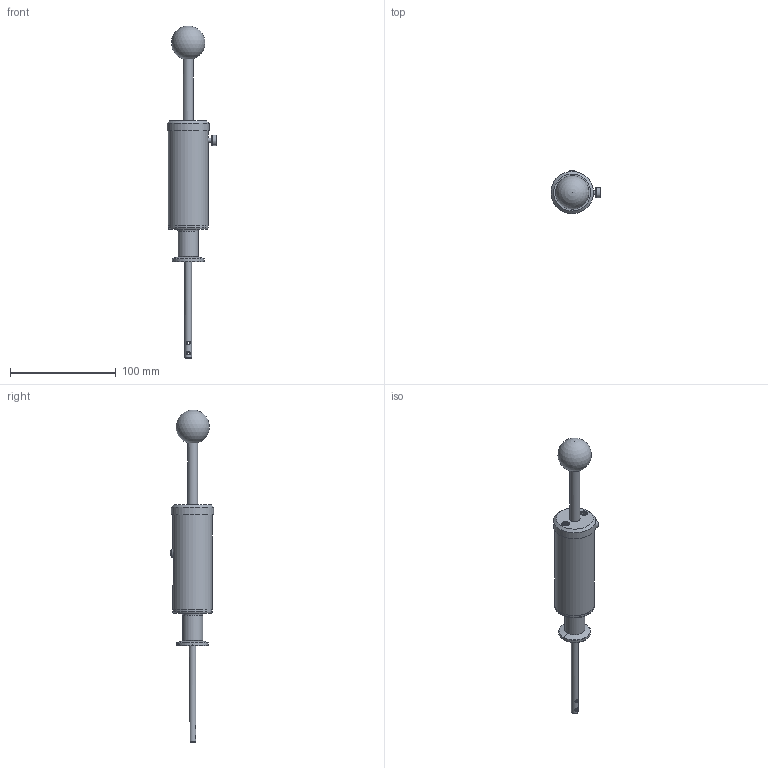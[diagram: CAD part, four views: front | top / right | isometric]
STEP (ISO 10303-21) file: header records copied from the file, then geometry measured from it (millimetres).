
FILE_DESCRIPTION(/* description */ ('Alibre Inc.'),/* implementation_level */ '2;1');
FILE_NAME(/* name */ 'export0',/* time_stamp */ '2014-05-19T14:49:28-07:00',/* author */ ('Accu-Glass_Products_Inc.'),/* organization */ ('Accu-Glass_Products_Inc.'),/* preprocessor_version */ 'ST-DEVELOPER v14',/* originating_system */ 'Alibre',/* authorisation */ 'Accu-Glass_Products_Inc.');
FILE_SCHEMA (('CONFIG_CONTROL_DESIGN'));
Length unit declared in the file: centimetre
Products named in the file (1): ID_1
Bounding box: 47.21 x 41.19 x 313.7 mm (x, y, z)
Volume: 147091.9 mm3; surface area: 25605.9 mm2
Topology: 1 solids, 4 shells, 723 faces, 1931 edges, 1264 vertices
Faces by surface type: plane 385, bspline 141, cylinder 134, cone 50, torus 9, sphere 4
Full cylindrical faces by diameter (mm): 2.414 x2, 4.166 x3, 6.35 x1, 6.985 x2, 9.423 x1, 9.525 x1, 9.652 x1, 9.906 x1, 12.776 x1, 15.812 x2, 18.161 x1, 19.05 x1, 37.338 x1, 37.465 x2, 40.005 x1
Entity records: 42969 total; most frequent: CARTESIAN_POINT 26586, ORIENTED_EDGE 3760, DIRECTION 2616, EDGE_CURVE 1880, VERTEX_POINT 1255, AXIS2_PLACEMENT_3D 1122, EDGE_LOOP 823, FACE_BOUND 823
